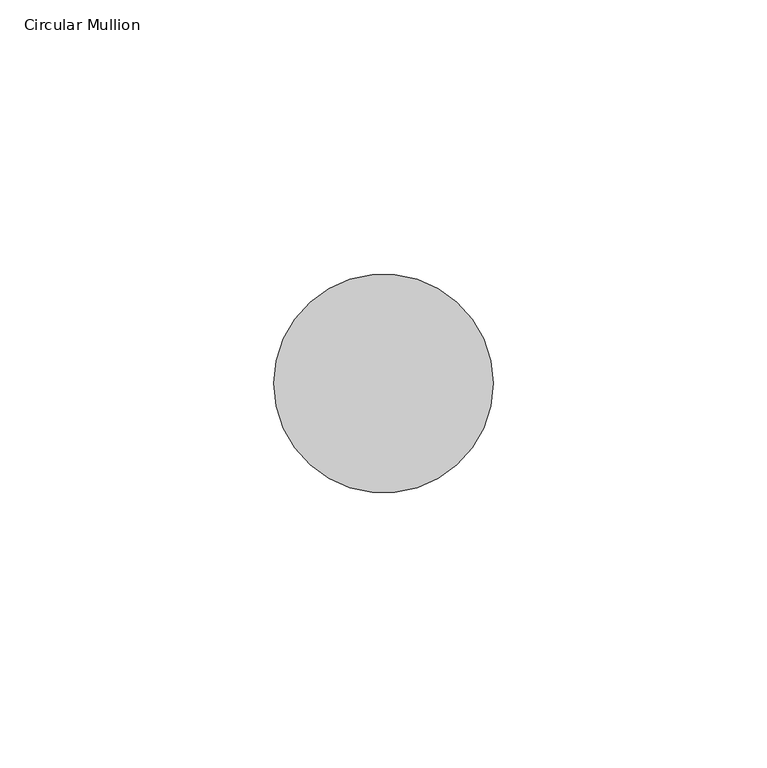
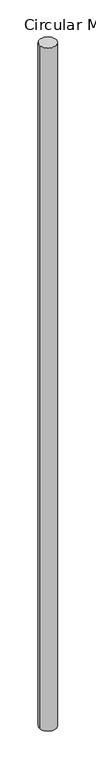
"""IFC4 building model written with IfcOpenShell, lengths in millimetres: member geometry, Circular Mullion : GRADIL 40mm."""

from ifc_helpers import new_model, si_unit, point, frame, origin, origin_2d, place, context, project, spatial, circle_curve, trimmed, segment, composite_curve, outline, extrude, source, transform, mapped, element, save


def circular_mullion_bc05f9c5(model_context):
    return source(origin(), model_context, "Body", "SweptSolid", [
        extrude(outline(composite_curve([segment(trimmed(circle_curve(origin_2d(), 20.0), [point((20.0, 0.0))], [point((-20.0, 0.0))], False, "CARTESIAN"), True, "CONTINUOUS"), segment(trimmed(circle_curve(origin_2d(), 20.0), [point((-20.0, 0.0))], [point((20.0, 0.0))], False, "CARTESIAN"), True, "CONTINUOUS")], self_intersect=False)), frame((0.0, 0.0, -1721.7740481), z_axis=(0.0, 0.0, 1.0), x_axis=(1.0, 0.0, 0.0)), (0.0, 0.0, 1.0), 1721.7740481),
    ])


if __name__ == "__main__":
    model = new_model("IFC4")
    model_context = context("Model", 3, world=origin())
    ifc_project = project(units=[si_unit("LENGTHUNIT", "METRE", prefix="MILLI")], contexts=[model_context])
    site = spatial("IfcSite", under=ifc_project)
    building = spatial("IfcBuilding", under=site)
    placement = place(None, origin())
    circular_mullion_shape = circular_mullion_bc05f9c5(model_context)
    element("IfcMember", 1, ObjectType="Circular Mullion : GRADIL 40mm", at=placement, inside=building, context=model_context, shape_type="MappedRepresentation", body=[
        mapped(circular_mullion_shape, transform((0.0, 0.0, 0.0), x_axis=(1.0, 0.0, 0.0), y_axis=(0.0, 1.0, 0.0), z_axis=(0.0, 0.0, 1.0))),
    ])
    save(model, "model.ifc")
